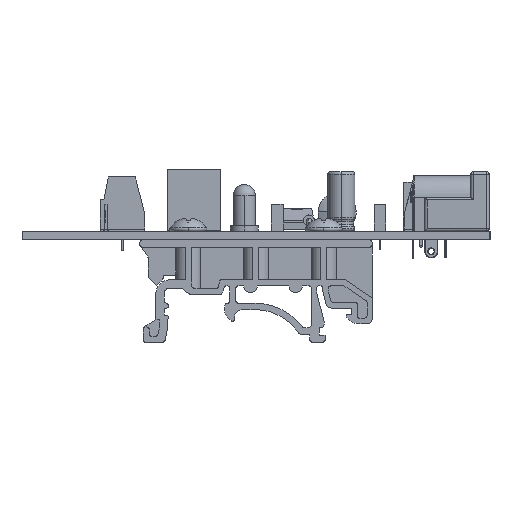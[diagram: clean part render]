
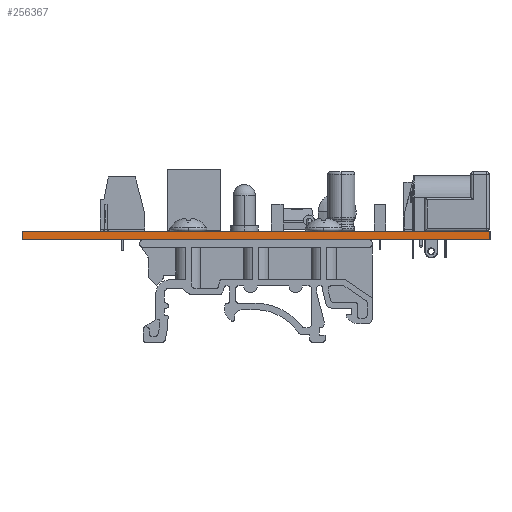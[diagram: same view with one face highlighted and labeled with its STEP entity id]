
A CAD part, left-side view. The second image highlights one B-rep face of the part: STEP entity #256367.
In plain terms, the highlighted planar face has unit normal (-1, 0, 0).
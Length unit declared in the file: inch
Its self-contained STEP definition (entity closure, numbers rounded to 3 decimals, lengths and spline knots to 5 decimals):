
#14289 = CARTESIAN_POINT ( 'NONE',  ( 0., 0., -0.0624 ) ) ;
#23605 = EDGE_CURVE ( 'NONE', #302580, #228937, #129677, .T. ) ;
#38661 = DIRECTION ( 'NONE',  ( 0., 0., 1. ) ) ;
#41163 = ORIENTED_EDGE ( 'NONE', *, *, #156199, .F. ) ;
#53459 = FACE_OUTER_BOUND ( 'NONE', #56251, .T. ) ;
#55553 = AXIS2_PLACEMENT_3D ( 'NONE', #108707, #183090, #204694 ) ;
#56251 = EDGE_LOOP ( 'NONE', ( #230626, #91745, #278769, #41163 ) ) ;
#60153 = PLANE ( 'NONE',  #55553 ) ;
#61298 = CARTESIAN_POINT ( 'NONE',  ( 0., 0., 0. ) ) ;
#88235 = DIRECTION ( 'NONE',  ( 0., 1., 0. ) ) ;
#91574 = CARTESIAN_POINT ( 'NONE',  ( 0., 0., -0.0624 ) ) ;
#91745 = ORIENTED_EDGE ( 'NONE', *, *, #316164, .T. ) ;
#108707 = CARTESIAN_POINT ( 'NONE',  ( 0., 0., -0.0624 ) ) ;
#114794 = DIRECTION ( 'NONE',  ( 0., 0., 1. ) ) ;
#129677 = LINE ( 'NONE', #14289, #145103 ) ;
#135712 = EDGE_CURVE ( 'NONE', #239848, #192680, #221215, .T. ) ;
#141894 = CARTESIAN_POINT ( 'NONE',  ( 0., 3.4, 0. ) ) ;
#145103 = VECTOR ( 'NONE', #114794, 39.37008 ) ;
#156199 = EDGE_CURVE ( 'NONE', #302580, #239848, #163748, .T. ) ;
#156766 = CARTESIAN_POINT ( 'NONE',  ( 0., 0., 0. ) ) ;
#163748 = LINE ( 'NONE', #292681, #295290 ) ;
#183090 = DIRECTION ( 'NONE',  ( -1., 0., 0. ) ) ;
#192680 = VERTEX_POINT ( 'NONE', #141894 ) ;
#204694 = DIRECTION ( 'NONE',  ( 0., 0., 1. ) ) ;
#221215 = LINE ( 'NONE', #261027, #240729 ) ;
#228937 = VERTEX_POINT ( 'NONE', #156766 ) ;
#230626 = ORIENTED_EDGE ( 'NONE', *, *, #23605, .T. ) ;
#239848 = VERTEX_POINT ( 'NONE', #309792 ) ;
#240729 = VECTOR ( 'NONE', #38661, 39.37008 ) ;
#256367 = ADVANCED_FACE ( 'NONE', ( #53459 ), #60153, .T. ) ;
#260801 = LINE ( 'NONE', #61298, #318757 ) ;
#261027 = CARTESIAN_POINT ( 'NONE',  ( 0., 3.4, -0.0624 ) ) ;
#278769 = ORIENTED_EDGE ( 'NONE', *, *, #135712, .F. ) ;
#292681 = CARTESIAN_POINT ( 'NONE',  ( 0., 0., -0.0624 ) ) ;
#295290 = VECTOR ( 'NONE', #317399, 39.37008 ) ;
#302580 = VERTEX_POINT ( 'NONE', #91574 ) ;
#309792 = CARTESIAN_POINT ( 'NONE',  ( 0., 3.4, -0.0624 ) ) ;
#316164 = EDGE_CURVE ( 'NONE', #228937, #192680, #260801, .T. ) ;
#317399 = DIRECTION ( 'NONE',  ( 0., 1., 0. ) ) ;
#318757 = VECTOR ( 'NONE', #88235, 39.37008 ) ;
